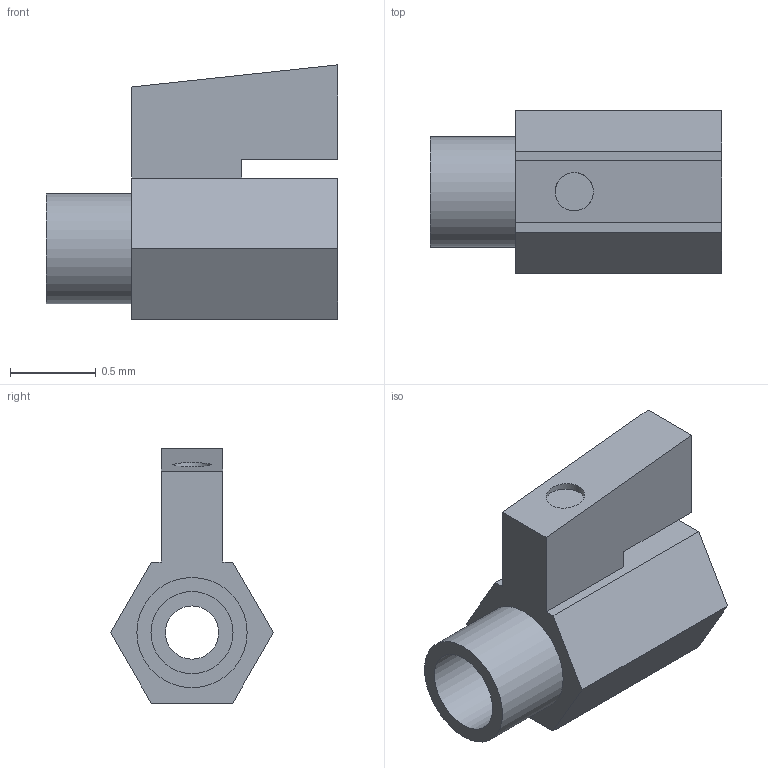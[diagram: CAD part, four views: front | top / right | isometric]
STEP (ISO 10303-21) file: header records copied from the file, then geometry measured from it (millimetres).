
FILE_DESCRIPTION(('Open CASCADE Model'),'2;1');
FILE_NAME('Open CASCADE Shape Model','2021-09-23T11:08:07',('Author'),( 'Open CASCADE'),'Open CASCADE STEP processor 7.3','Open CASCADE 7.3' ,'Unknown');
FILE_SCHEMA(('AUTOMOTIVE_DESIGN { 1 0 10303 214 1 1 1 1 }'));
Length unit declared in the file: millimetre
Products named in the file (1): Open CASCADE STEP translator 7.3 1
Bounding box: 1.7 x 0.95 x 1.48 mm (x, y, z)
Volume: 0.8 mm3; surface area: 9.9 mm2
Topology: 1 solids, 1 shells, 23 faces, 52 edges, 35 vertices
Faces by surface type: plane 18, cylinder 5
Full cylindrical faces by diameter (mm): 0.223 x1, 0.31 x1, 0.478 x1, 0.574 x1, 0.642 x1
Entity records: 1395 total; most frequent: CARTESIAN_POINT 310, DIRECTION 201, LINE 127, VECTOR 127, ORIENTED_EDGE 104, PCURVE 104, DEFINITIONAL_REPRESENTATION 104, EDGE_CURVE 52
